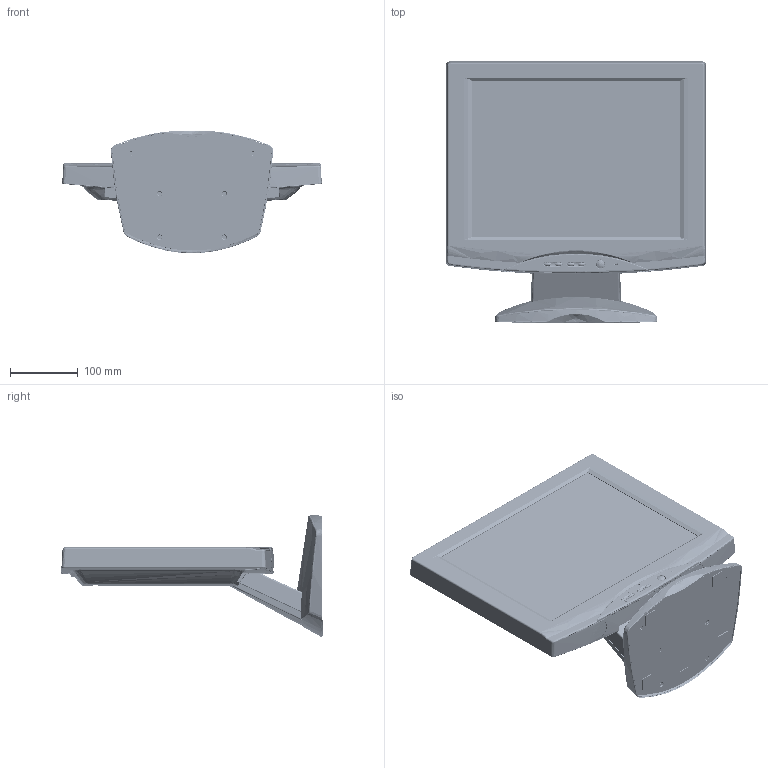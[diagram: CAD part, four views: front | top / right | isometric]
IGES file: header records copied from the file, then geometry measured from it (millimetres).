
Start section: SolidWorks IGES file using analytic representation for surfaces
Global section: file name: C:\Richard Folder\1195 Building\1195 Rich Directory\PT1510MX\Final\PT1510MX.IGS; native system: SolidWorks 2014; preprocessor: SolidWorks 2014; author: RDavenport; date: 140925.095518; units: millimetre
Bounding box: 382.54 x 385.81 x 180.6 mm (x, y, z)
Surface area: 2560996.7 mm2 (no closed solid volume)
Topology: 0 solids, 0 shells, 11881 faces, 121832 edges, 121754 vertices
Faces by surface type: bspline 9275, revolution 2606
